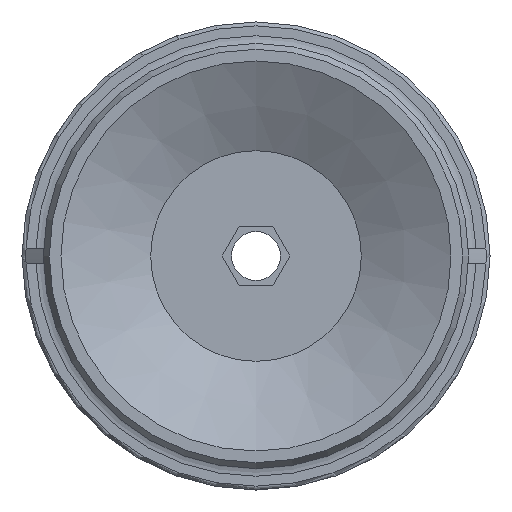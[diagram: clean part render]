
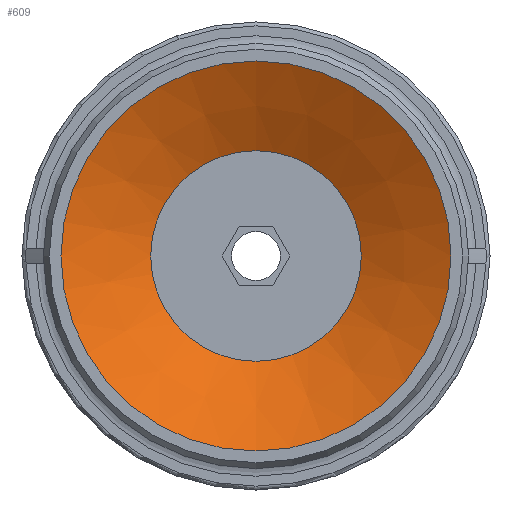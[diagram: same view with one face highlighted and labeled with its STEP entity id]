
A CAD part, front view. The second image highlights one B-rep face of the part: STEP entity #609.
In plain terms, the highlighted conical face has half-angle 61.631 degrees and reference radius 5.4 mm.
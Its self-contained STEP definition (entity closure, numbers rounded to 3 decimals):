
#609=ADVANCED_FACE('',(#881,#882),#883,.F.);
#881=FACE_BOUND('',#1214,.T.);
#882=FACE_OUTER_BOUND('',#1215,.T.);
#883=CONICAL_SURFACE('',#1216,5.4,1.076);
#1214=EDGE_LOOP('',(#1965));
#1215=EDGE_LOOP('',(#1966));
#1216=AXIS2_PLACEMENT_3D('',#1967,#1968,#1969);
#1965=ORIENTED_EDGE('',*,*,#2379,.F.);
#1966=ORIENTED_EDGE('',*,*,#2388,.T.);
#1967=CARTESIAN_POINT('',(0.0,2.484,0.0));
#1968=DIRECTION('',(-0.0,-1.0,0.));
#1969=DIRECTION('',(0.0,0.,-1.0));
#2379=EDGE_CURVE('',#2747,#2747,#2748,.T.);
#2388=EDGE_CURVE('',#2764,#2764,#2765,.T.);
#2747=VERTEX_POINT('',#3551);
#2748=CIRCLE('',#3552,5.4);
#2764=VERTEX_POINT('',#3570);
#2765=CIRCLE('',#3571,10.0);
#3551=CARTESIAN_POINT('',(0.0,2.484,-5.4));
#3552=AXIS2_PLACEMENT_3D('',#3965,#3966,#3967);
#3570=CARTESIAN_POINT('',(0.0,0.,-10.0));
#3571=AXIS2_PLACEMENT_3D('',#3988,#3989,#3990);
#3965=CARTESIAN_POINT('',(0.0,2.484,0.0));
#3966=DIRECTION('',(0.0,-1.0,0.));
#3967=DIRECTION('',(0.0,0.,-1.0));
#3988=CARTESIAN_POINT('',(0.0,0.0,0.0));
#3989=DIRECTION('',(0.0,-1.0,0.));
#3990=DIRECTION('',(0.0,0.,-1.0));
